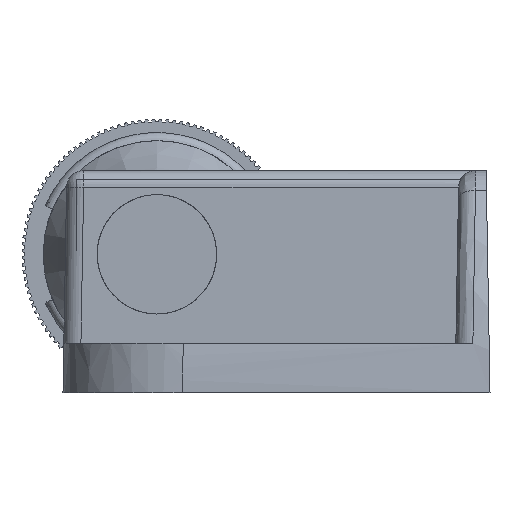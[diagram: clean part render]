
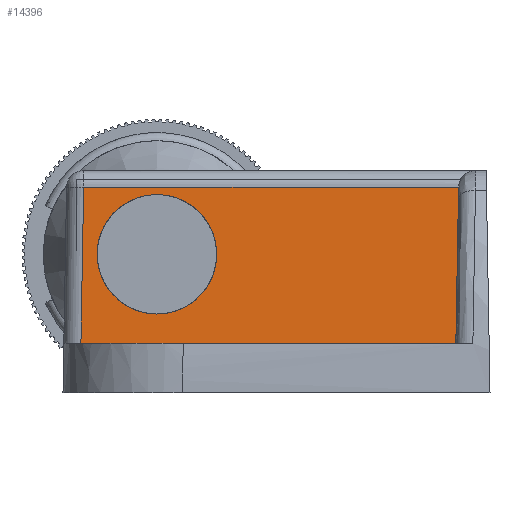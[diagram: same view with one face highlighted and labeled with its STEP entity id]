
A CAD part, left-side view. The second image highlights one B-rep face of the part: STEP entity #14396.
In plain terms, the highlighted planar face has unit normal (-1, 0, 0.018).
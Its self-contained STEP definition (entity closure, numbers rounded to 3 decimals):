
#19=ELLIPSE('',#15647,3.501,3.5);
#128=FACE_BOUND('',#2040,.T.);
#515=PLANE('',#15804);
#1264=FACE_OUTER_BOUND('',#2039,.T.);
#2039=EDGE_LOOP('',(#13232,#13233,#13234,#13235));
#2040=EDGE_LOOP('',(#13236));
#3506=LINE('',#26506,#4892);
#3513=LINE('',#26662,#4899);
#3515=LINE('',#26666,#4901);
#3516=LINE('',#26667,#4902);
#4892=VECTOR('',#19856,10.);
#4899=VECTOR('',#19921,10.);
#4901=VECTOR('',#19925,10.);
#4902=VECTOR('',#19926,10.);
#6726=VERTEX_POINT('',#25781);
#6924=VERTEX_POINT('',#26503);
#6925=VERTEX_POINT('',#26505);
#6941=VERTEX_POINT('',#26661);
#6942=VERTEX_POINT('',#26665);
#8727=EDGE_CURVE('',#6726,#6726,#19,.T.);
#9021=EDGE_CURVE('',#6924,#6925,#3506,.T.);
#9050=EDGE_CURVE('',#6941,#6925,#3513,.T.);
#9052=EDGE_CURVE('',#6942,#6924,#3515,.T.);
#9053=EDGE_CURVE('',#6941,#6942,#3516,.T.);
#13232=ORIENTED_EDGE('',*,*,#9021,.F.);
#13233=ORIENTED_EDGE('',*,*,#9052,.F.);
#13234=ORIENTED_EDGE('',*,*,#9053,.F.);
#13235=ORIENTED_EDGE('',*,*,#9050,.T.);
#13236=ORIENTED_EDGE('',*,*,#8727,.T.);
#14396=ADVANCED_FACE('',(#1264,#128),#515,.F.);
#15647=AXIS2_PLACEMENT_3D('',#25782,#19340,#19341);
#15804=AXIS2_PLACEMENT_3D('',#26664,#19923,#19924);
#19340=DIRECTION('center_axis',(1.,0.,
-0.017));
#19341=DIRECTION('ref_axis',(0.017,0.,1.));
#19856=DIRECTION('',(0.,-1.,0.));
#19921=DIRECTION('',(0.017,-0.017,1.));
#19923=DIRECTION('center_axis',(1.,0.,
-0.017));
#19924=DIRECTION('ref_axis',(0.,1.,0.));
#19925=DIRECTION('',(0.017,-0.017,1.));
#19926=DIRECTION('',(0.,1.,0.));
#25781=CARTESIAN_POINT('',(-33.97,19.5,4.6));
#25782=CARTESIAN_POINT('Origin',(-33.909,19.5,8.1));
#26503=CARTESIAN_POINT('',(-33.841,23.79,12.017));
#26505=CARTESIAN_POINT('',(-33.841,1.841,12.017));
#26506=CARTESIAN_POINT('',(-33.841,19.25,12.017));
#26661=CARTESIAN_POINT('',(-34.,2.,2.9));
#26662=CARTESIAN_POINT('',(-34.004,2.004,2.691));
#26664=CARTESIAN_POINT('Origin',(-34.,26.,2.9));
#26665=CARTESIAN_POINT('',(-34.,23.95,2.9));
#26666=CARTESIAN_POINT('',(-34.014,23.963,2.104));
#26667=CARTESIAN_POINT('',(-34.,2.,2.9));
